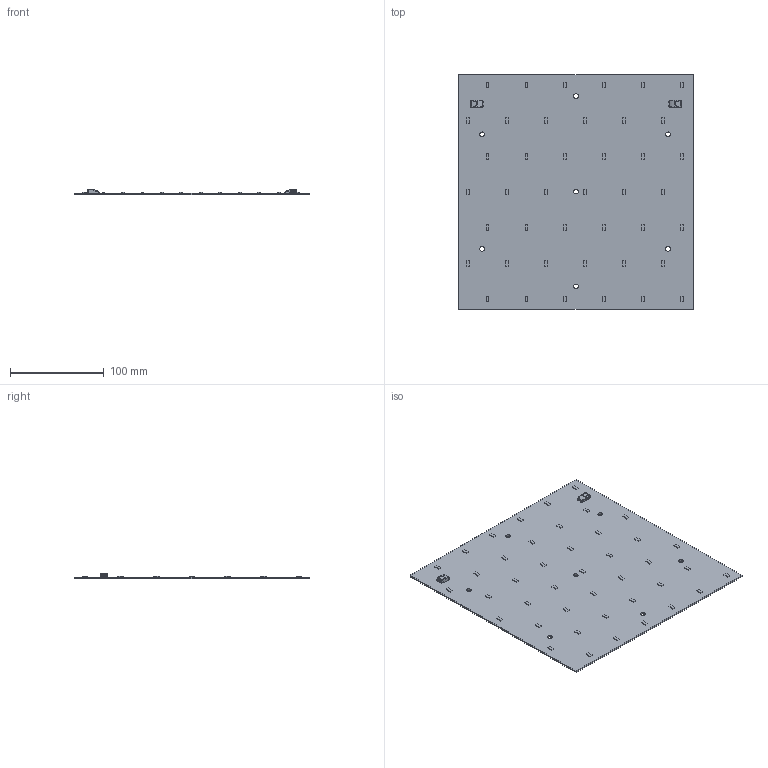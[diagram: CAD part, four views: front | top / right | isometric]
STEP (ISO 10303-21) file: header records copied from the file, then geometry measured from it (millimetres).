
FILE_DESCRIPTION(('ML42R8FL'),'2;1');
FILE_NAME('Z:\Mixdeal\Catalogo\Modelos 3D\STEP\ML42R8FL.stp','2015-06-26T15:24:20',('Nicolas Kretzig'),('MIXDEAL SA'),'Autodesk Inventor 2011','Autodesk Inventor 2011','');
FILE_SCHEMA(('AUTOMOTIVE_DESIGN { 1 0 10303 214 1 1 1 1 }'));
Length unit declared in the file: millimetre
Products named in the file (3): Placa ML42R8FL; ML42R8FL; 46-102-1001
Assembly tree (3 placements, depth 2):
  Placa ML42R8FL
    ML42R8FL
    46-102-1001  x2
Bounding box: 250 x 250 x 5.7 mm (x, y, z)
Volume: 110451.2 mm3; surface area: 128126.3 mm2
Topology: 3 solids, 3 shells, 943 faces, 2396 edges, 1593 vertices
Faces by surface type: plane 696, bspline 142, cylinder 95, torus 8, cone 2
Full cylindrical faces by diameter (mm): 0.6 x4, 5 x7
Entity records: 21153 total; most frequent: CARTESIAN_POINT 6877, ORIENTED_EDGE 2904, DIRECTION 2462, EDGE_CURVE 1452, VECTOR 1180, LINE 1180, VERTEX_POINT 970, EDGE_LOOP 694
